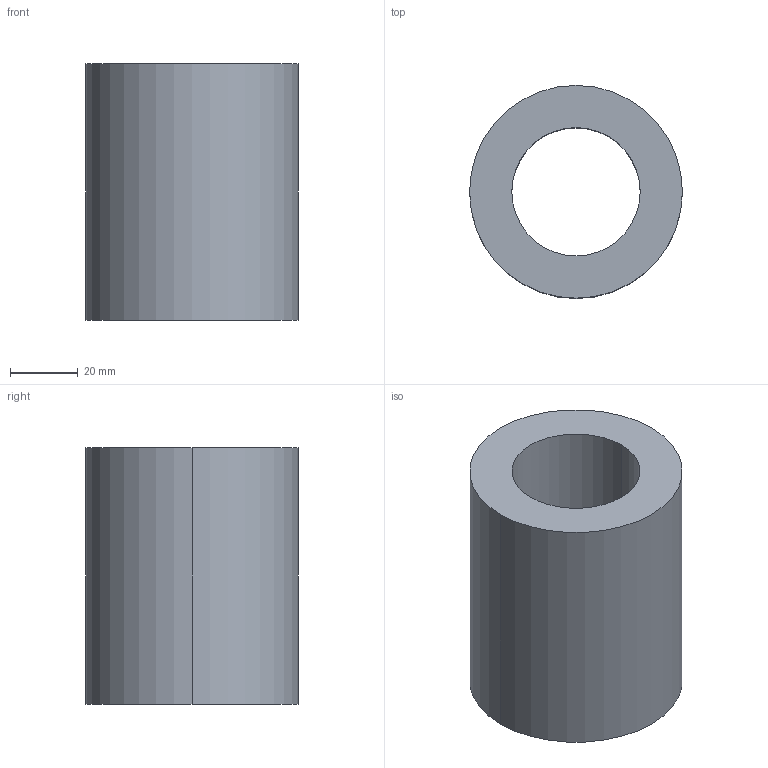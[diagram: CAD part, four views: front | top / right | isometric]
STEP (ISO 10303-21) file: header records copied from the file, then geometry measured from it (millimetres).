
FILE_DESCRIPTION (( 'STEP AP214' ), '1' );
FILE_NAME ('BRR-63X076.STEP', '2020-07-21T10:12:34', ( 'August' ), ( '' ), 'SwSTEP 2.0', 'SolidWorks 2018', '' );
FILE_SCHEMA (( 'AUTOMOTIVE_DESIGN' ));
Length unit declared in the file: millimetre
Products named in the file (1): BRR-63X076
Bounding box: 63 x 63 x 76 mm (x, y, z)
Volume: 150717.9 mm3; surface area: 28081.1 mm2
Topology: 1 solids, 1 shells, 6 faces, 12 edges, 8 vertices
Faces by surface type: cylinder 4, plane 2
Entity records: 202 total; most frequent: DIRECTION 34, CARTESIAN_POINT 27, ORIENTED_EDGE 24, AXIS2_PLACEMENT_3D 15, EDGE_CURVE 12, EDGE_LOOP 8, VERTEX_POINT 8, CIRCLE 8
